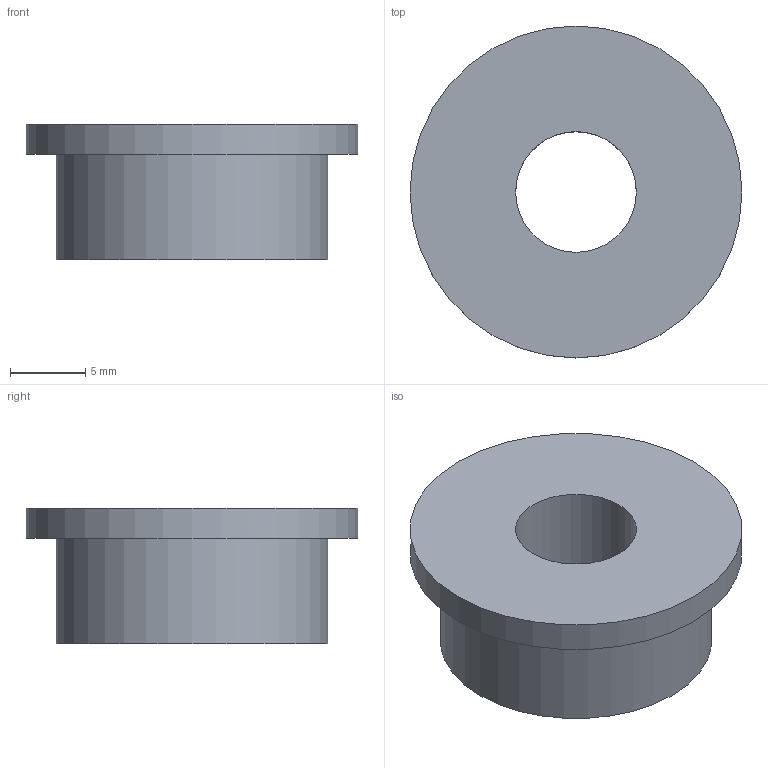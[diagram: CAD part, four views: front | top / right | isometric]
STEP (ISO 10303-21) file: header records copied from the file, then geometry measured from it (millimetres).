
FILE_DESCRIPTION(/* description */ ('STEP AP242','CAx-IF Rec.Pracs.---Representation and Presentation of Product Manufacturing Information (PMI)---4.0---2014-10-13','CAx-IF Rec.Pracs.---3D Tessellated Geometry---0.4---2014-09-14','2;1'),/* implementation_level */ '2;1');
FILE_NAME(/* name */ '09b - Pulley spacer B - Pulley spacer B',/* time_stamp */ '2024-12-03T19:58:33Z',/* author */ (''),/* organization */ (''),/* preprocessor_version */ 'ST-DEVELOPER v20',/* originating_system */ 'ONSHAPE BY PTC INC, 1.190',/* authorisation */ ' ');
FILE_SCHEMA (('AP242_MANAGED_MODEL_BASED_3D_ENGINEERING_MIM_LF { 1 0 10303 442 1 1 4 }'));
Length unit declared in the file: metre
Products named in the file (1): Pulley spacer B
Bounding box: 22 x 22 x 9 mm (x, y, z)
Volume: 2089.2 mm3; surface area: 1420 mm2
Topology: 1 solids, 1 shells, 6 faces, 9 edges, 6 vertices
Faces by surface type: cylinder 3, plane 3
Full cylindrical faces by diameter (mm): 8 x1, 18 x1, 22 x1
Entity records: 150 total; most frequent: DIRECTION 26, CARTESIAN_POINT 19, AXIS2_PLACEMENT_3D 13, ORIENTED_EDGE 12, EDGE_LOOP 12, FACE_BOUND 12, EDGE_CURVE 6, VERTEX_POINT 6
